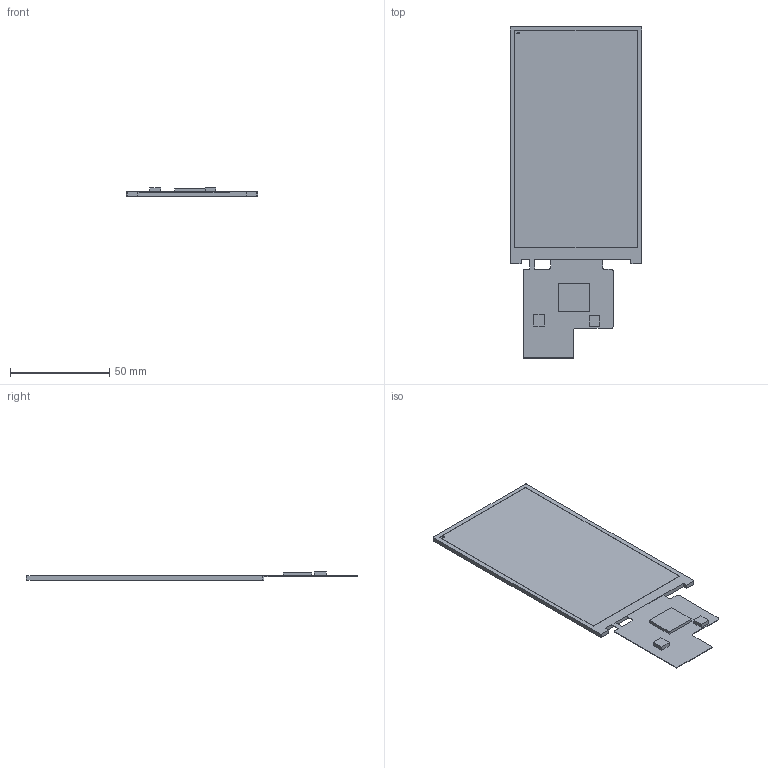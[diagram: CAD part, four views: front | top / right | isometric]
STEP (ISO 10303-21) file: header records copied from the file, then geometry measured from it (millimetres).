
FILE_DESCRIPTION((''),'2;1');
FILE_NAME('DMG85480F050_01WTC','2021-12-01T',('Administrator'),(''),'PRO/ENGINEER BY PARAMETRIC TECHNOLOGY CORPORATION, 2014320','PRO/ENGINEER BY PARAMETRIC TECHNOLOGY CORPORATION, 2014320','');
FILE_SCHEMA(('CONFIG_CONTROL_DESIGN','SHAPE_APPEARANCE_LAYERS_GROUPS'));
Length unit declared in the file: millimetre
Products named in the file (1): DMG85480F050_01WTC
Bounding box: 66.4 x 167.59 x 4.06 mm (x, y, z)
Volume: 16504.2 mm3; surface area: 20497.7 mm2
Topology: 1 solids, 1 shells, 80 faces, 210 edges, 140 vertices
Faces by surface type: plane 70, cylinder 10
Entity records: 2526 total; most frequent: CARTESIAN_POINT 430, ORIENTED_EDGE 420, DIRECTION 390, EDGE_CURVE 210, VECTOR 190, LINE 190, VERTEX_POINT 140, AXIS2_PLACEMENT_3D 100
